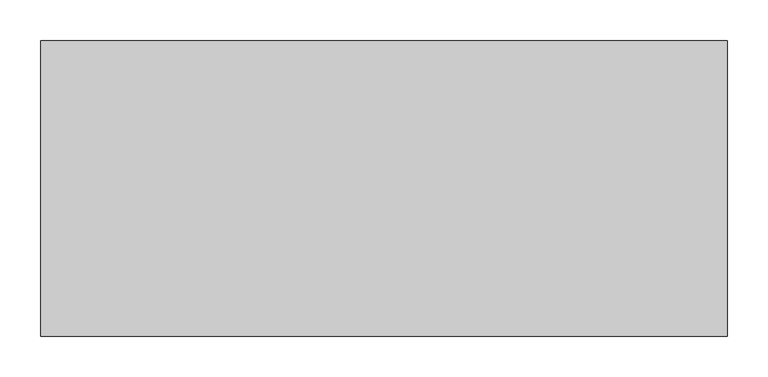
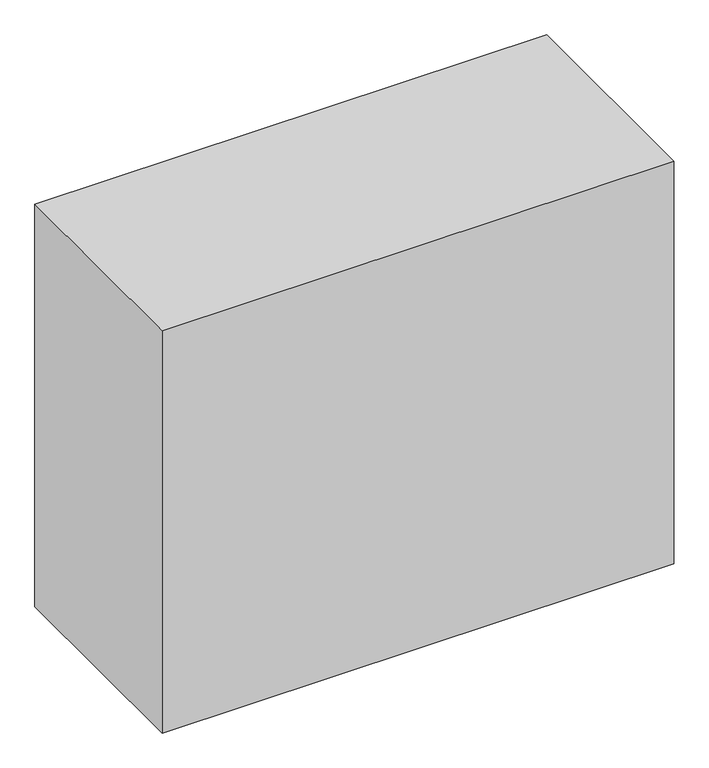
"""IFC4 building model written with IfcOpenShell, lengths in millimetres: proxy geometry, HP -SZ1H18D : HP -SZ1H18D."""

from ifc_helpers import new_model, si_unit, origin, origin_with_axes, place, context, project, spatial, polyline, outline, extrude, source, transform, mapped, element, save


def mechanical_equipment_9c06255b(model_context):
    return source(origin(), model_context, "Body", "SweptSolid", [
        extrude(outline(polyline([(422.275, 181.76875), (422.275, -181.76875), (-422.275, -181.76875), (-422.275, 181.76875), (422.275, 181.76875)])), origin_with_axes(), (0.0, 0.0, 1.0), 701.675),
    ])


if __name__ == "__main__":
    model = new_model("IFC4")
    model_context = context("Model", 3, world=origin())
    ifc_project = project(units=[si_unit("LENGTHUNIT", "METRE", prefix="MILLI")], contexts=[model_context])
    site = spatial("IfcSite", under=ifc_project)
    building = spatial("IfcBuilding", under=site)
    placement = place(None, origin())
    mechanical_equipment_shape = mechanical_equipment_9c06255b(model_context)
    element("IfcBuildingElementProxy", 1, Name="HP -SZ1H18D : HP -SZ1H18D", ObjectType="HP -SZ1H18D : HP -SZ1H18D", at=placement, inside=building, context=model_context, shape_type="MappedRepresentation", body=[
        mapped(mechanical_equipment_shape, transform((0.0, 0.0, 0.0), x_axis=(1.0, 0.0, 0.0), y_axis=(0.0, 1.0, 0.0), z_axis=(0.0, 0.0, 1.0))),
    ])
    save(model, "model.ifc")
